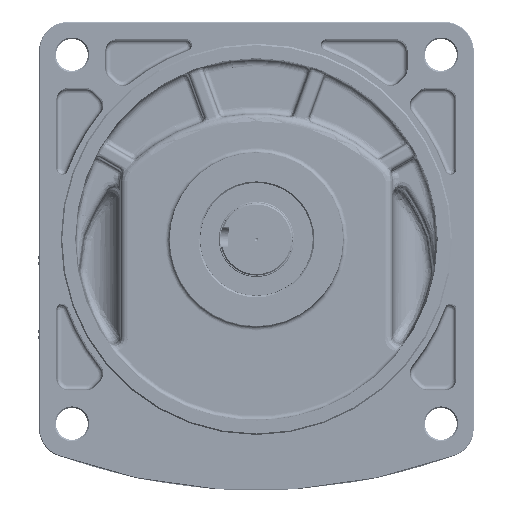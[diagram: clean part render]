
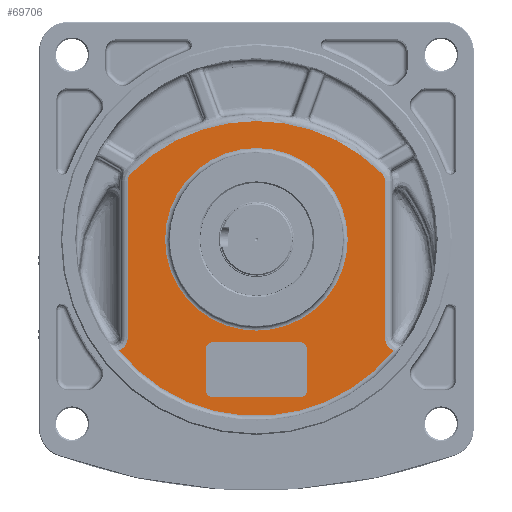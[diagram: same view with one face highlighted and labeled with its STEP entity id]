
A CAD part, front view. The second image highlights one B-rep face of the part: STEP entity #69706.
In plain terms, the highlighted planar face has unit normal (0, -1, 0).
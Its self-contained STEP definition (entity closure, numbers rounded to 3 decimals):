
#2530=LINE('',#147729,#5655);
#2533=LINE('',#148230,#5658);
#2631=LINE('',#155499,#5756);
#2632=LINE('',#155503,#5757);
#2633=LINE('',#155507,#5758);
#2634=LINE('',#155511,#5759);
#5655=VECTOR('',#89322,10.);
#5658=VECTOR('',#89359,10.);
#5756=VECTOR('',#90509,10.);
#5757=VECTOR('',#90512,10.);
#5758=VECTOR('',#90515,10.);
#5759=VECTOR('',#90518,10.);
#8416=FACE_BOUND('',#17026,.T.);
#8417=FACE_BOUND('',#17027,.T.);
#9221=PLANE('',#76042);
#12707=FACE_OUTER_BOUND('',#17025,.T.);
#17025=EDGE_LOOP('',(#56267,#56268,#56269,#56270,#56271,#56272,#56273,#56274));
#17026=EDGE_LOOP('',(#56275,#56276,#56277,#56278,#56279,#56280,#56281,#56282));
#17027=EDGE_LOOP('',(#56283));
#21328=CIRCLE('',#76039,121.858);
#21330=CIRCLE('',#76043,121.601);
#21331=CIRCLE('',#76044,5.);
#21332=CIRCLE('',#76045,5.);
#21333=CIRCLE('',#76046,5.);
#21334=CIRCLE('',#76047,5.);
#21335=CIRCLE('',#76048,63.);
#24221=B_SPLINE_CURVE_WITH_KNOTS('',3,(#137801,#137802,#137803,#137804,
#137805,#137806,#137807),.UNSPECIFIED.,.F.,.F.,(4,1,1,1,4),(0.,
0.361,0.722,1.084,1.153),
 .UNSPECIFIED.);
#24904=B_SPLINE_CURVE_WITH_KNOTS('',3,(#155354,#155355,#155356,#155357,
#155358,#155359),.UNSPECIFIED.,.F.,.F.,(4,1,1,4),(1.376,1.806,
2.167,2.528),.UNSPECIFIED.);
#24905=B_SPLINE_CURVE_WITH_KNOTS('',3,(#155485,#155486,#155487,#155488,
#155489),.UNSPECIFIED.,.F.,.F.,(4,1,4),(0.,0.309,0.541),
 .UNSPECIFIED.);
#24906=B_SPLINE_CURVE_WITH_KNOTS('',3,(#155492,#155493,#155494,#155495,
#155496),.UNSPECIFIED.,.F.,.F.,(4,1,4),(0.,0.232,0.541),
 .UNSPECIFIED.);
#28853=VERTEX_POINT('',#137787);
#28854=VERTEX_POINT('',#137799);
#29473=VERTEX_POINT('',#147728);
#29483=VERTEX_POINT('',#148228);
#29484=VERTEX_POINT('',#148229);
#29876=VERTEX_POINT('',#155341);
#29878=VERTEX_POINT('',#155484);
#29879=VERTEX_POINT('',#155490);
#29880=VERTEX_POINT('',#155497);
#29881=VERTEX_POINT('',#155498);
#29882=VERTEX_POINT('',#155500);
#29883=VERTEX_POINT('',#155502);
#29884=VERTEX_POINT('',#155504);
#29885=VERTEX_POINT('',#155506);
#29886=VERTEX_POINT('',#155508);
#29887=VERTEX_POINT('',#155510);
#29888=VERTEX_POINT('',#155513);
#37178=EDGE_CURVE('',#28854,#28853,#24221,.T.);
#38235=EDGE_CURVE('',#29473,#28854,#2530,.T.);
#38261=EDGE_CURVE('',#29483,#29484,#2533,.T.);
#38982=EDGE_CURVE('',#29876,#29483,#24904,.T.);
#38985=EDGE_CURVE('',#28853,#29876,#21328,.T.);
#38988=EDGE_CURVE('',#29878,#29473,#24905,.T.);
#38989=EDGE_CURVE('',#29879,#29878,#21330,.T.);
#38990=EDGE_CURVE('',#29484,#29879,#24906,.T.);
#38991=EDGE_CURVE('',#29880,#29881,#2631,.T.);
#38992=EDGE_CURVE('',#29882,#29881,#21331,.T.);
#38993=EDGE_CURVE('',#29882,#29883,#2632,.T.);
#38994=EDGE_CURVE('',#29884,#29883,#21332,.T.);
#38995=EDGE_CURVE('',#29884,#29885,#2633,.T.);
#38996=EDGE_CURVE('',#29886,#29885,#21333,.T.);
#38997=EDGE_CURVE('',#29886,#29887,#2634,.T.);
#38998=EDGE_CURVE('',#29880,#29887,#21334,.T.);
#38999=EDGE_CURVE('',#29888,#29888,#21335,.T.);
#56267=ORIENTED_EDGE('',*,*,#38985,.F.);
#56268=ORIENTED_EDGE('',*,*,#37178,.F.);
#56269=ORIENTED_EDGE('',*,*,#38235,.F.);
#56270=ORIENTED_EDGE('',*,*,#38988,.F.);
#56271=ORIENTED_EDGE('',*,*,#38989,.F.);
#56272=ORIENTED_EDGE('',*,*,#38990,.F.);
#56273=ORIENTED_EDGE('',*,*,#38261,.F.);
#56274=ORIENTED_EDGE('',*,*,#38982,.F.);
#56275=ORIENTED_EDGE('',*,*,#38991,.T.);
#56276=ORIENTED_EDGE('',*,*,#38992,.F.);
#56277=ORIENTED_EDGE('',*,*,#38993,.T.);
#56278=ORIENTED_EDGE('',*,*,#38994,.F.);
#56279=ORIENTED_EDGE('',*,*,#38995,.T.);
#56280=ORIENTED_EDGE('',*,*,#38996,.F.);
#56281=ORIENTED_EDGE('',*,*,#38997,.T.);
#56282=ORIENTED_EDGE('',*,*,#38998,.F.);
#56283=ORIENTED_EDGE('',*,*,#38999,.F.);
#69706=ADVANCED_FACE('',(#12707,#8416,#8417),#9221,.F.);
#76039=AXIS2_PLACEMENT_3D('',#155478,#90498,#90499);
#76042=AXIS2_PLACEMENT_3D('',#155483,#90505,#90506);
#76043=AXIS2_PLACEMENT_3D('',#155491,#90507,#90508);
#76044=AXIS2_PLACEMENT_3D('',#155501,#90510,#90511);
#76045=AXIS2_PLACEMENT_3D('',#155505,#90513,#90514);
#76046=AXIS2_PLACEMENT_3D('',#155509,#90516,#90517);
#76047=AXIS2_PLACEMENT_3D('',#155512,#90519,#90520);
#76048=AXIS2_PLACEMENT_3D('',#155514,#90521,#90522);
#89322=DIRECTION('',(0.,0.,-1.));
#89359=DIRECTION('',(0.,0.,1.));
#90498=DIRECTION('center_axis',(0.,1.,0.));
#90499=DIRECTION('ref_axis',(0.,0.,
-1.));
#90505=DIRECTION('center_axis',(0.,1.,0.));
#90506=DIRECTION('ref_axis',(-1.,0.,0.));
#90507=DIRECTION('center_axis',(0.,1.,0.));
#90508=DIRECTION('ref_axis',(0.,0.,
1.));
#90509=DIRECTION('',(0.,0.,1.));
#90510=DIRECTION('center_axis',(0.,-1.,0.));
#90511=DIRECTION('ref_axis',(-0.707,0.,0.707));
#90512=DIRECTION('',(1.,0.,0.));
#90513=DIRECTION('center_axis',(0.,-1.,0.));
#90514=DIRECTION('ref_axis',(0.707,0.,0.707));
#90515=DIRECTION('',(0.,0.,-1.));
#90516=DIRECTION('center_axis',(0.,-1.,0.));
#90517=DIRECTION('ref_axis',(0.707,0.,-0.707));
#90518=DIRECTION('',(-1.,0.,0.));
#90519=DIRECTION('center_axis',(0.,-1.,0.));
#90520=DIRECTION('ref_axis',(-0.707,0.,-0.707));
#90521=DIRECTION('center_axis',(0.,-1.,0.));
#90522=DIRECTION('ref_axis',(-1.,0.,0.));
#137787=CARTESIAN_POINT('',(37.085,2.,61.843));
#137799=CARTESIAN_POINT('',(31.107,2.,71.027));
#137801=CARTESIAN_POINT('Ctrl Pts',(31.107,2.,71.027));
#137802=CARTESIAN_POINT('Ctrl Pts',(31.107,2.,69.823));
#137803=CARTESIAN_POINT('Ctrl Pts',(31.547,2.,67.387));
#137804=CARTESIAN_POINT('Ctrl Pts',(33.451,2.,64.233));
#137805=CARTESIAN_POINT('Ctrl Pts',(35.57,2.,62.556));
#137806=CARTESIAN_POINT('Ctrl Pts',(36.873,2.,61.934));
#137807=CARTESIAN_POINT('Ctrl Pts',(37.085,2.,61.842));
#147728=CARTESIAN_POINT('',(31.107,2.,178.978));
#147729=CARTESIAN_POINT('',(31.107,2.,44.589));
#148228=CARTESIAN_POINT('',(-146.246,2.,71.027));
#148229=CARTESIAN_POINT('',(-146.246,2.,178.978));
#148230=CARTESIAN_POINT('',(-146.246,2.,44.589));
#155341=CARTESIAN_POINT('',(-152.224,2.,61.843));
#155354=CARTESIAN_POINT('Ctrl Pts',(-152.227,2.,
61.849));
#155355=CARTESIAN_POINT('Ctrl Pts',(-150.907,2.,62.433));
#155356=CARTESIAN_POINT('Ctrl Pts',(-148.703,2.,
64.025));
#155357=CARTESIAN_POINT('Ctrl Pts',(-146.69,2.,
67.396));
#155358=CARTESIAN_POINT('Ctrl Pts',(-146.246,2.,
69.823));
#155359=CARTESIAN_POINT('Ctrl Pts',(-146.246,2.,
71.027));
#155478=CARTESIAN_POINT('Origin',(-57.569,2.,138.589));
#155483=CARTESIAN_POINT('Origin',(-57.569,2.,98.589));
#155484=CARTESIAN_POINT('',(29.097,2.,183.887));
#155485=CARTESIAN_POINT('Ctrl Pts',(29.097,2.,183.887));
#155486=CARTESIAN_POINT('Ctrl Pts',(29.819,2.,183.153));
#155487=CARTESIAN_POINT('Ctrl Pts',(30.804,2.,181.571));
#155488=CARTESIAN_POINT('Ctrl Pts',(31.107,2.,179.75));
#155489=CARTESIAN_POINT('Ctrl Pts',(31.107,2.,178.978));
#155490=CARTESIAN_POINT('',(-144.235,2.,183.887));
#155491=CARTESIAN_POINT('Origin',(-57.569,2.,98.589));
#155492=CARTESIAN_POINT('Ctrl Pts',(-146.246,2.,
178.978));
#155493=CARTESIAN_POINT('Ctrl Pts',(-146.246,2.,
179.75));
#155494=CARTESIAN_POINT('Ctrl Pts',(-145.943,2.,
181.571));
#155495=CARTESIAN_POINT('Ctrl Pts',(-144.958,2.,
183.153));
#155496=CARTESIAN_POINT('Ctrl Pts',(-144.235,2.,
183.887));
#155497=CARTESIAN_POINT('',(-92.569,2.,34.589));
#155498=CARTESIAN_POINT('',(-92.569,2.,62.589));
#155499=CARTESIAN_POINT('',(-92.569,2.,83.089));
#155500=CARTESIAN_POINT('',(-87.569,2.,67.589));
#155501=CARTESIAN_POINT('Origin',(-87.569,2.,62.589));
#155502=CARTESIAN_POINT('',(-27.569,2.,67.589));
#155503=CARTESIAN_POINT('',(-40.069,2.,67.589));
#155504=CARTESIAN_POINT('',(-22.569,2.,62.589));
#155505=CARTESIAN_POINT('Origin',(-27.569,2.,62.589));
#155506=CARTESIAN_POINT('',(-22.569,2.,34.589));
#155507=CARTESIAN_POINT('',(-22.569,2.,64.089));
#155508=CARTESIAN_POINT('',(-27.569,2.,29.589));
#155509=CARTESIAN_POINT('Origin',(-27.569,2.,34.589));
#155510=CARTESIAN_POINT('',(-87.569,2.,29.589));
#155511=CARTESIAN_POINT('',(-75.069,2.,29.589));
#155512=CARTESIAN_POINT('Origin',(-87.569,2.,34.589));
#155513=CARTESIAN_POINT('',(5.431,2.,138.589));
#155514=CARTESIAN_POINT('Origin',(-57.569,2.,138.589));
